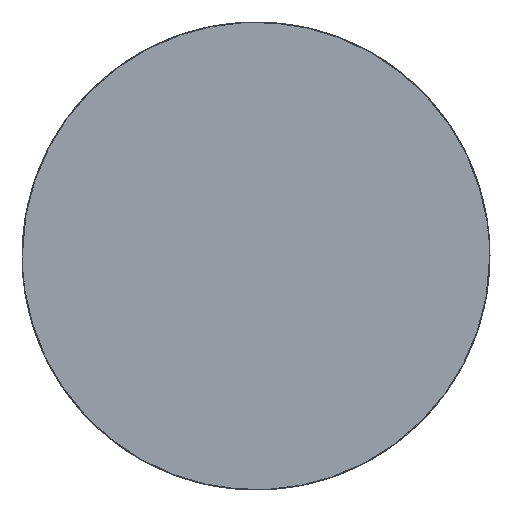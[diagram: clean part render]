
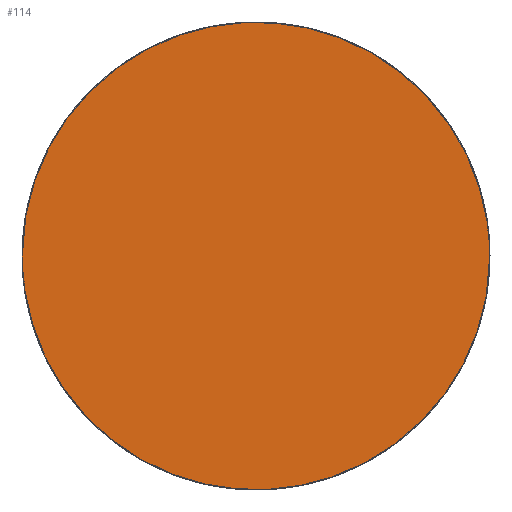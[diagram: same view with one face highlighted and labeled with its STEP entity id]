
A CAD part, top view. The second image highlights one B-rep face of the part: STEP entity #114.
In plain terms, the highlighted planar face has unit normal (0, 0, 1).
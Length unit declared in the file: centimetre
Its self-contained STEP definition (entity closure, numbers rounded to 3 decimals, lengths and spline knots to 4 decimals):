
#17=(
BOUNDED_CURVE()
B_SPLINE_CURVE(2,(#1579,#1580,#1581,#1582,#1583),.UNSPECIFIED.,.F.,.F.)
B_SPLINE_CURVE_WITH_KNOTS((3,2,3),(0.,94.0901,188.1802),
 .UNSPECIFIED.)
CURVE()
GEOMETRIC_REPRESENTATION_ITEM()
RATIONAL_B_SPLINE_CURVE((1.,0.707,1.,0.707,1.))
REPRESENTATION_ITEM('')
);
#26=(
BOUNDED_CURVE()
B_SPLINE_CURVE(2,(#1622,#1623,#1624,#1625,#1626),.UNSPECIFIED.,.F.,.F.)
B_SPLINE_CURVE_WITH_KNOTS((3,2,3),(188.1802,282.2703,376.3604),
 .UNSPECIFIED.)
CURVE()
GEOMETRIC_REPRESENTATION_ITEM()
RATIONAL_B_SPLINE_CURVE((1.,0.707,1.,0.707,1.))
REPRESENTATION_ITEM('')
);
#114=ADVANCED_FACE('',(#167),#783,.T.);
#167=FACE_OUTER_BOUND('',#220,.T.);
#220=EDGE_LOOP('',(#404,#405));
#404=ORIENTED_EDGE('',*,*,#559,.F.);
#405=ORIENTED_EDGE('',*,*,#548,.F.);
#548=EDGE_CURVE('',#730,#739,#17,.T.);
#559=EDGE_CURVE('',#739,#730,#26,.T.);
#730=VERTEX_POINT('',#1541);
#739=VERTEX_POINT('',#1550);
#783=PLANE('',#825);
#825=AXIS2_PLACEMENT_3D('',#1427,#853,$);
#853=DIRECTION('',(0.,0.,1.));
#1427=CARTESIAN_POINT('',(-1.2,-1.2,77.));
#1541=CARTESIAN_POINT('',(119.9,60.,77.));
#1550=CARTESIAN_POINT('',(0.1,60.,77.));
#1579=CARTESIAN_POINT('',(119.9,60.,77.));
#1580=CARTESIAN_POINT('',(119.9,0.1,77.));
#1581=CARTESIAN_POINT('',(60.,0.1,77.));
#1582=CARTESIAN_POINT('',(0.1,0.1,77.));
#1583=CARTESIAN_POINT('',(0.1,60.,77.));
#1622=CARTESIAN_POINT('',(0.1,60.,77.));
#1623=CARTESIAN_POINT('',(0.1,119.9,77.));
#1624=CARTESIAN_POINT('',(60.,119.9,77.));
#1625=CARTESIAN_POINT('',(119.9,119.9,77.));
#1626=CARTESIAN_POINT('',(119.9,60.,77.));
